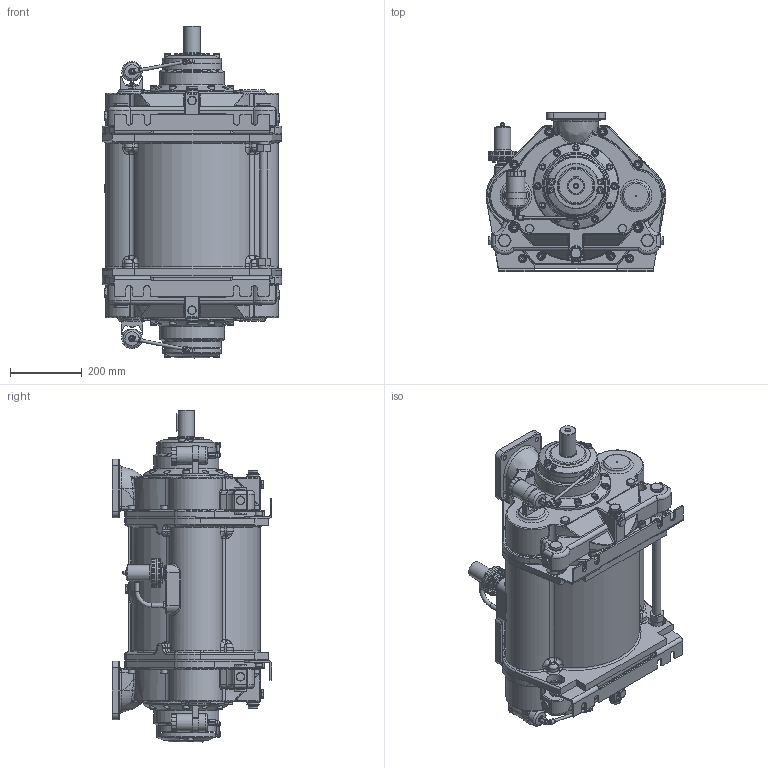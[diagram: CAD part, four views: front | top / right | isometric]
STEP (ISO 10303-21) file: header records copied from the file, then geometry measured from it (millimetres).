
FILE_DESCRIPTION(/* description */ (''),/* implementation_level */ '2;1');
FILE_NAME(/* name */ '1700038C.stp',/* time_stamp */ '2025-09-23T15:10:11+02:00',/* author */ ('JJ'),/* organization */ (''),/* preprocessor_version */ 'ST-DEVELOPER v20',/* originating_system */ 'Autodesk Inventor 2025',/* authorisation */ '');
FILE_SCHEMA (('AUTOMOTIVE_DESIGN { 1 0 10303 214 3 1 1 }'));
Length unit declared in the file: millimetre
Products named in the file (1): 1700038
Bounding box: 502.5 x 447.09 x 928.4 mm (x, y, z)
Volume: 87181419.7 mm3; surface area: 1937901.5 mm2
Topology: 9 solids, 9 shells, 3596 faces, 9123 edges, 5802 vertices
Faces by surface type: plane 1484, cylinder 942, bspline 582, torus 279, cone 277, sphere 32
Full cylindrical faces by diameter (mm): 1.5 x16, 3.3 x4, 3.5 x2, 4 x2, 4.134 x4, 5 x2, 5.3 x2, 6 x3, 8 x11, 8.5 x2, 9.2 x2, 9.7 x1, 9.8 x4, 10 x8, 10.106 x12, 10.11 x1, 12 x3, 13 x7, 13.5 x4, 13.835 x8, 14.95 x1, 15 x4, 16.662 x1, 17.5 x12, 18 x40, 19.5 x12, 20 x8, 21.8 x11, 22 x1, 23.8 x11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
Entity records: 124942 total; most frequent: CARTESIAN_POINT 38989, ORIENTED_EDGE 18072, DIRECTION 15918, EDGE_CURVE 9036, AXIS2_PLACEMENT_3D 5932, VERTEX_POINT 5802, LINE 4054, VECTOR 4054
